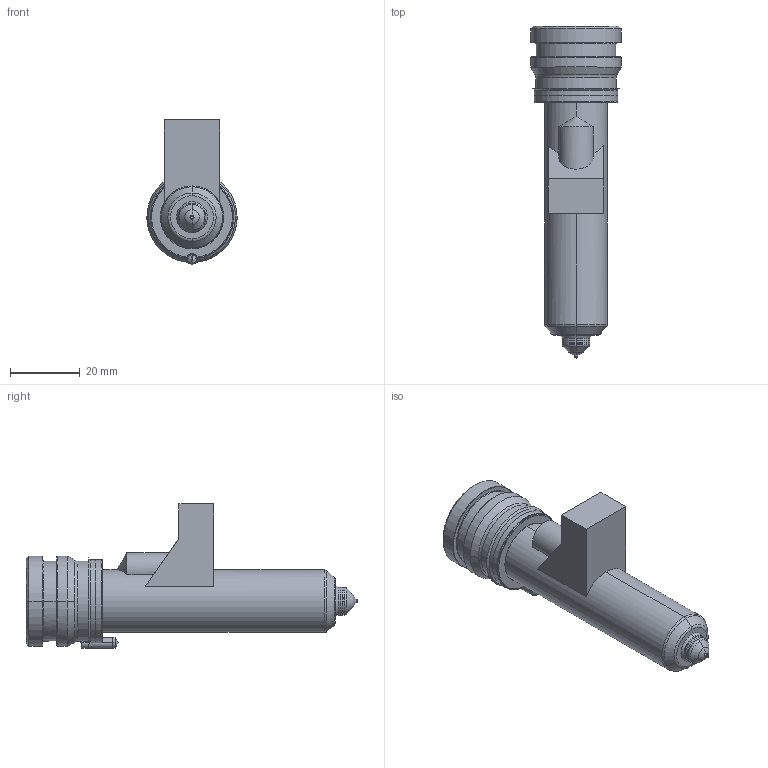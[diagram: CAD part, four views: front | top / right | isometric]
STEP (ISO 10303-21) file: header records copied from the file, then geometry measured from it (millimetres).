
FILE_DESCRIPTION((''),'2;1');
FILE_NAME('MPN-08-24-VX8-076-M','2026-02-05T13:30:48',('UPTIO'),('Thermoplay S.p.A.'),'CREO PARAMETRIC BY PTC INC, 2023494','CREO PARAMETRIC BY PTC INC, 2023494','');
FILE_SCHEMA(('CONFIG_CONTROL_DESIGN','SHAPE_APPEARANCE_LAYERS_GROUPS'));
Length unit declared in the file: millimetre
Products named in the file (1): MPN-08-24-VX8-076-M
Bounding box: 26 x 95.5 x 41.5 mm (x, y, z)
Volume: 19394.1 mm3; surface area: 25111.8 mm2
Topology: 2 solids, 3 shells, 529 faces, 1372 edges, 842 vertices
Faces by surface type: cylinder 174, plane 143, bspline 77, torus 60, cone 60, sphere 9, extrusion 6
Entity records: 27849 total; most frequent: CARTESIAN_POINT 12328, ORIENTED_EDGE 2726, DIRECTION 2495, EDGE_CURVE 1363, AXIS2_PLACEMENT_3D 975, VERTEX_POINT 842, EDGE_LOOP 559, VECTOR 545
